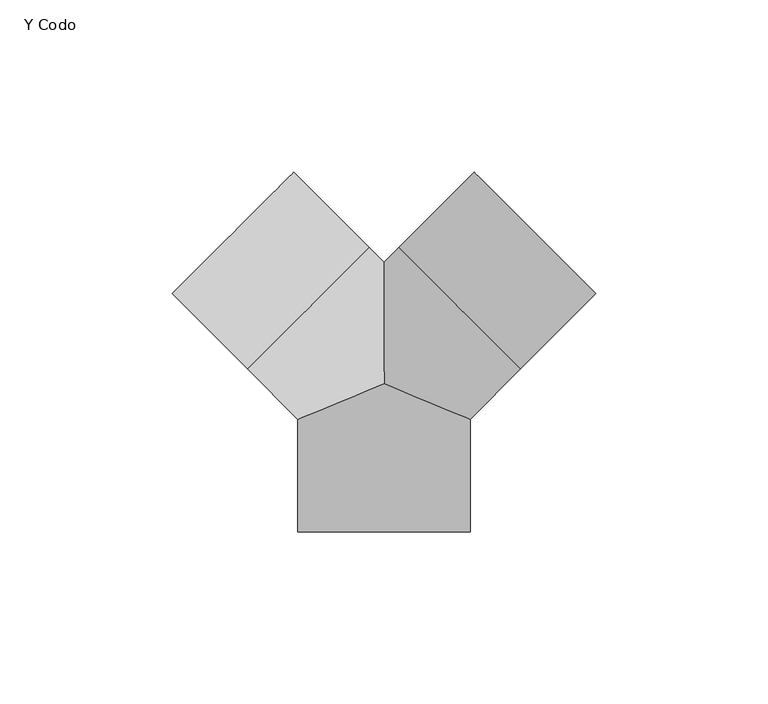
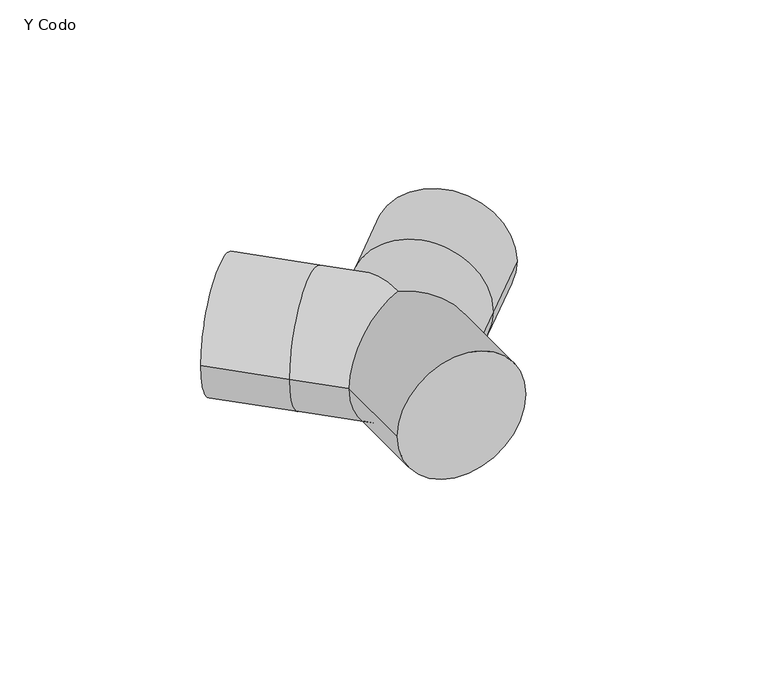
"""IFC4 building model written with IfcOpenShell, lengths in millimetres: pipe fitting geometry, 01051345 : Y Codo."""

from ifc_helpers import new_model, si_unit, frame, origin, place, context, project, spatial, circle_curve, ellipse_curve, source, transform, mapped, element, save
from ifc_brep_helpers import plane_surface, cylinder_surface, advanced_brep


def y_codo_93db943d(model_context):
    return source(origin(), model_context, "Body", "AdvancedBrep", [
        advanced_brep(
        [(-4.2426407, 39.5979797, 0.0), (-39.5979797, 4.2426407, 0.0), (-25.0, -10.3553391, 0.0), (0.0, 0.0, 25.0), (0.0, 35.3553391, 0.0), (0.0, 0.0, -25.0), (-26.1629509, 61.51829, 0.0), (-61.51829, 26.1629509, 0.0), (39.5979797, 4.2426407, 0.0), (4.2426407, 39.5979797, 0.0), (25.0, -10.3553391, 0.0), (61.51829, 26.1629509, 0.0), (26.1629509, 61.51829, 0.0), (-25.0, -43.0, 0.0), (25.0, -43.0, 0.0)],
        [
            (0, 1, circle_curve(frame((-21.9203102, 21.9203102, 0.0), z_axis=(0.7071067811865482, -0.707106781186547, 0.0), x_axis=(-0.707106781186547, -0.7071067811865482, 0.0)), 25.0)),
            (1, 2),
            (2, 3, ellipse_curve(frame((0.0, 0.0, 0.0), z_axis=(-0.38268343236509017, 0.9238795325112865, 0.0), x_axis=(0.9238795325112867, 0.38268343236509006, 0.0)), 27.059805, 25.0)),
            (3, 4, ellipse_curve(frame((0.0, 0.0, 0.0), z_axis=(-1.0, 0.0, 0.0), x_axis=(0.0, -1.0, 0.0)), 35.3553391, 25.0)),
            (4, 0),
            (1, 0, circle_curve(frame((-21.9203102, 21.9203102, 0.0), z_axis=(0.7071067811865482, -0.707106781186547, 0.0), x_axis=(-0.707106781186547, -0.7071067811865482, 0.0)), 25.0)),
            (4, 5, ellipse_curve(frame((0.0, 0.0, 0.0), z_axis=(-1.0, 0.0, 0.0), x_axis=(0.0, -1.0, 0.0)), 35.3553391, 25.0)),
            (5, 2, ellipse_curve(frame((0.0, 0.0, 0.0), z_axis=(-0.38268343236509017, 0.9238795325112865, 0.0), x_axis=(0.9238795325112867, 0.38268343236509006, 0.0)), 27.059805, 25.0)),
            (6, 7, circle_curve(frame((-43.8406204, 43.8406204, 0.0), z_axis=(-0.7071067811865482, 0.707106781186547, 0.0), x_axis=(-0.707106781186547, -0.7071067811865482, 0.0)), 25.0)),
            (7, 6, circle_curve(frame((-43.8406204, 43.8406204, 0.0), z_axis=(-0.7071067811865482, 0.707106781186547, 0.0), x_axis=(-0.707106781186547, -0.7071067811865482, 0.0)), 25.0)),
            (0, 6),
            (7, 1),
            (8, 9, circle_curve(frame((21.9203102, 21.9203102, 0.0), z_axis=(-0.7071067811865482, -0.7071067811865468, 0.0), x_axis=(-0.7071067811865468, 0.7071067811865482, 0.0)), 25.0)),
            (9, 4),
            (3, 10, ellipse_curve(frame((0.0, 0.0, 0.0), z_axis=(0.3826834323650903, 0.9238795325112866, 0.0), x_axis=(-0.9238795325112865, 0.38268343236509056, 0.0)), 27.059805, 25.0)),
            (10, 8),
            (9, 8, circle_curve(frame((21.9203102, 21.9203102, 0.0), z_axis=(-0.7071067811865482, -0.7071067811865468, 0.0), x_axis=(-0.7071067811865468, 0.7071067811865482, 0.0)), 25.0)),
            (10, 5, ellipse_curve(frame((0.0, 0.0, 0.0), z_axis=(0.3826834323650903, 0.9238795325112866, 0.0), x_axis=(-0.9238795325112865, 0.38268343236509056, 0.0)), 27.059805, 25.0)),
            (11, 12, circle_curve(frame((43.8406204, 43.8406204, 0.0), z_axis=(0.7071067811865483, 0.7071067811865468, 0.0), x_axis=(-0.7071067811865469, 0.7071067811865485, 0.0)), 25.0)),
            (12, 11, circle_curve(frame((43.8406204, 43.8406204, 0.0), z_axis=(0.7071067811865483, 0.7071067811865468, 0.0), x_axis=(-0.7071067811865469, 0.7071067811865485, 0.0)), 25.0)),
            (8, 11),
            (12, 9),
            (13, 14, circle_curve(frame((0.0, -43.0, 0.0), z_axis=(0.0, -1.0, 0.0), x_axis=(1.0, 0.0, 0.0)), 25.0)),
            (14, 13, circle_curve(frame((0.0, -43.0, 0.0), z_axis=(0.0, -1.0, 0.0), x_axis=(1.0, 0.0, 0.0)), 25.0)),
            (14, 10),
            (2, 13),
        ],
        [
            cylinder_surface(frame((0.0, 0.0, 0.0), z_axis=(0.7071067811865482, -0.707106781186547, 0.0), x_axis=(-0.707106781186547, -0.7071067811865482, 0.0)), 25.0),
            plane_surface(frame((-43.8406204, 43.8406204, 0.0), z_axis=(-0.707106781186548, 0.707106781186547, 0.0), x_axis=(0.0, 0.0, 1.0))),
            cylinder_surface(frame((-21.9203102, 21.9203102, 0.0), z_axis=(0.7071067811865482, -0.707106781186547, 0.0), x_axis=(-0.707106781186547, -0.7071067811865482, 0.0)), 25.0),
            cylinder_surface(frame((0.0, 0.0, 0.0), z_axis=(-0.7071067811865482, -0.7071067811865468, 0.0), x_axis=(-0.7071067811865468, 0.7071067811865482, 0.0)), 25.0),
            plane_surface(frame((43.8406204, 43.8406204, 0.0), z_axis=(0.707106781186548, 0.707106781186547, 0.0), x_axis=(0.0, 0.0, 1.0))),
            cylinder_surface(frame((21.9203102, 21.9203102, 0.0), z_axis=(-0.7071067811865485, -0.7071067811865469, 0.0), x_axis=(-0.7071067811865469, 0.7071067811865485, 0.0)), 25.0),
            plane_surface(frame((0.0, -43.0, 0.0), z_axis=(0.0, -1.0, 0.0), x_axis=(0.0, 0.0, 1.0))),
            cylinder_surface(frame((0.0, 0.0, 0.0), z_axis=(0.0, 1.0, 0.0), x_axis=(1.0, 0.0, 0.0)), 25.0),
        ],
        [
            (0, [[1, 2, 3, 4, 5]]),
            (0, [[6, -5, 7, 8, -2]]),
            (1, [[9, 10]]),
            (2, [[-1, 11, -10, 12]]),
            (2, [[-6, -12, -9, -11]]),
            (3, [[13, 14, -4, 15, 16]]),
            (3, [[17, -16, 18, -7, -14]]),
            (4, [[19, 20]]),
            (5, [[-13, 21, -20, 22]]),
            (5, [[-17, -22, -19, -21]]),
            (6, [[23, 24]]),
            (7, [[-24, 25, -15, -3, 26]]),
            (7, [[-23, -26, -8, -18, -25]]),
        ],
    ),
    ])


if __name__ == "__main__":
    model = new_model("IFC4")
    model_context = context("Model", 3, world=origin())
    ifc_project = project(units=[si_unit("LENGTHUNIT", "METRE", prefix="MILLI")], contexts=[model_context])
    site = spatial("IfcSite", under=ifc_project)
    building = spatial("IfcBuilding", under=site)
    placement = place(None, origin())
    y_codo_shape = y_codo_93db943d(model_context)
    element("IfcPipeFitting", 1, ObjectType="01051345 : Y Codo", at=placement, inside=building, context=model_context, shape_type="MappedRepresentation", body=[
        mapped(y_codo_shape, transform((0.0, 0.0, 0.0), x_axis=(1.0, 0.0, 0.0), y_axis=(0.0, 1.0, 0.0), z_axis=(0.0, 0.0, 1.0))),
    ])
    save(model, "model.ifc")
